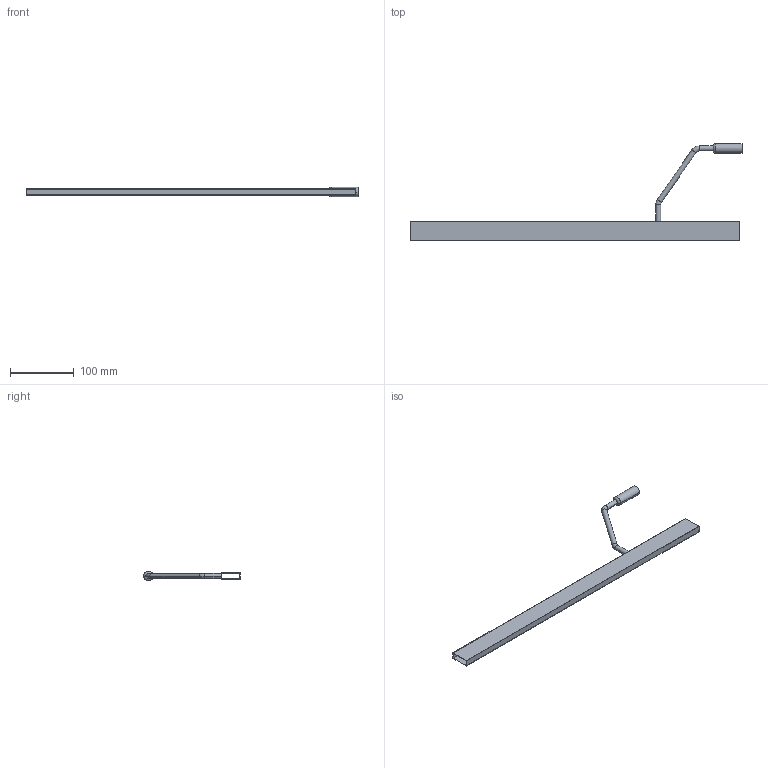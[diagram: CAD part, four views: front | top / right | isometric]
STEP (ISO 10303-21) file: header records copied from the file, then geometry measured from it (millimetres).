
FILE_DESCRIPTION (( 'STEP AP214' ), '1' );
FILE_NAME ('_DWD XP Rechteckreling mit Frontabstützung NL550.step', '2010-07-14T13:27:19', ( 'grass' ), ( '' ), 'SwSTEP 2.0', 'SolidWorks 2010', '' );
FILE_SCHEMA (( 'AUTOMOTIVE_DESIGN' ));
Length unit declared in the file: millimetre
Products named in the file (1): _DWD XP Rechteckreling mit Frontabstützung NL550
Bounding box: 521.6 x 151.9 x 15 mm (x, y, z)
Volume: 40276.7 mm3; surface area: 87690.6 mm2
Topology: 1 solids, 1 shells, 25 faces, 54 edges, 32 vertices
Faces by surface type: plane 11, cylinder 8, torus 6
Entity records: 712 total; most frequent: DIRECTION 128, CARTESIAN_POINT 112, ORIENTED_EDGE 108, EDGE_CURVE 54, AXIS2_PLACEMENT_3D 48, LINE 32, VECTOR 32, VERTEX_POINT 32
